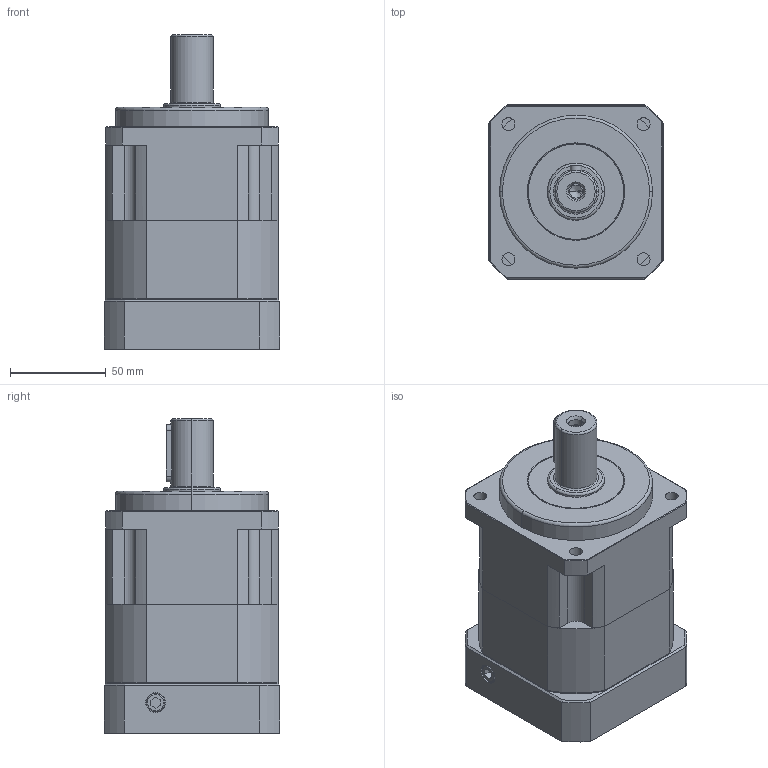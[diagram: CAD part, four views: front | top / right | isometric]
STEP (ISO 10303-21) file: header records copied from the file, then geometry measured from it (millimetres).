
FILE_DESCRIPTION (( 'STEP AP203' ), '1' );
FILE_NAME ('SB90-1-80M5.STEP', '2011-07-12T00:40:23', ( '1' ), ( '' ), 'SwSTEP 2.0', 'SolidWorks 2011', '' );
FILE_SCHEMA (( 'CONFIG_CONTROL_DESIGN' ));
Length unit declared in the file: millimetre
Products named in the file (1): SB90-1-80M5
Bounding box: 92 x 92 x 164.5 mm (x, y, z)
Volume: 713741.9 mm3; surface area: 139646.8 mm2
Topology: 16 solids, 16 shells, 615 faces, 1472 edges, 912 vertices
Faces by surface type: plane 261, cylinder 204, cone 115, torus 26, bspline 9
Entity records: 18786 total; most frequent: CARTESIAN_POINT 4241, DIRECTION 3153, ORIENTED_EDGE 2892, EDGE_CURVE 1446, AXIS2_PLACEMENT_3D 1198, VERTEX_POINT 912, LINE 757, VECTOR 757
